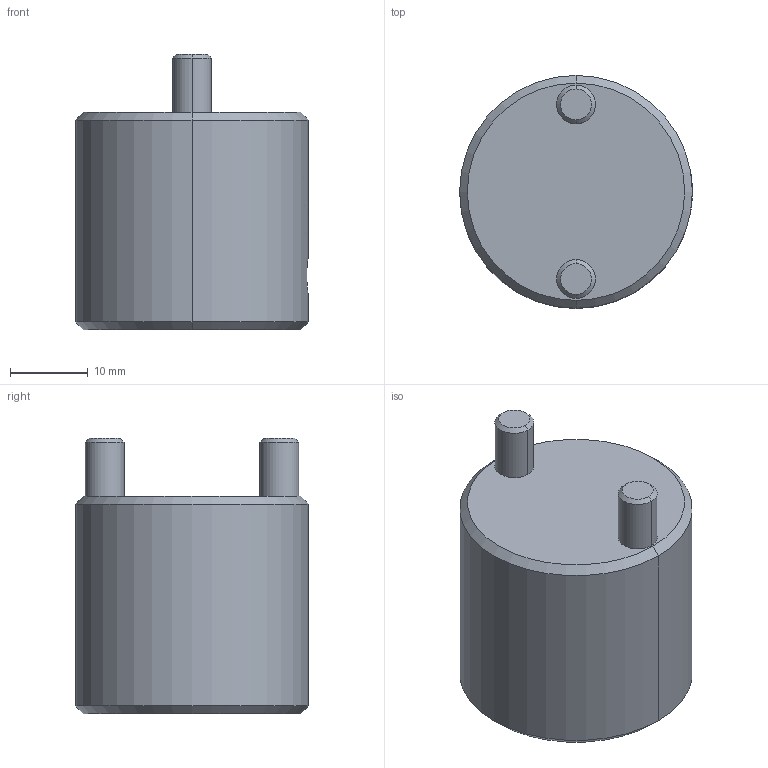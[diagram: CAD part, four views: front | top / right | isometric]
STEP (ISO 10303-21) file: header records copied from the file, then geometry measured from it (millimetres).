
FILE_DESCRIPTION((''),'2;1');
FILE_NAME('CS1016','2018-01-21T',('MANU'),(''),'PRO/ENGINEER BY PARAMETRIC TECHNOLOGY CORPORATION, 2012130','PRO/ENGINEER BY PARAMETRIC TECHNOLOGY CORPORATION, 2012130','');
FILE_SCHEMA(('CONFIG_CONTROL_DESIGN'));
Length unit declared in the file: millimetre
Products named in the file (1): CS1016
Bounding box: 30 x 30 x 35.5 mm (x, y, z)
Volume: 14997.3 mm3; surface area: 5464 mm2
Topology: 1 solids, 1 shells, 23 faces, 47 edges, 28 vertices
Faces by surface type: cylinder 10, cone 8, plane 5
Entity records: 735 total; most frequent: CARTESIAN_POINT 200, DIRECTION 109, ORIENTED_EDGE 94, EDGE_CURVE 47, AXIS2_PLACEMENT_3D 45, VERTEX_POINT 28, EDGE_LOOP 27, FACE_OUTER_BOUND 23
